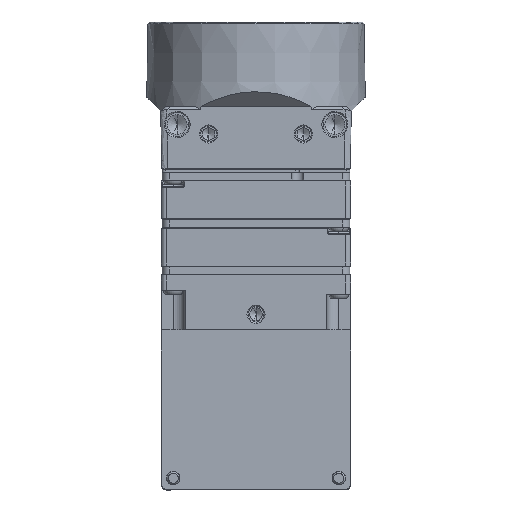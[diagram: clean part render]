
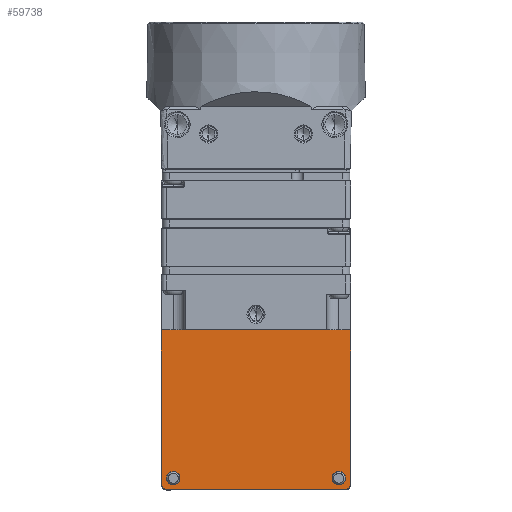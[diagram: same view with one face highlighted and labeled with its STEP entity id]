
A CAD part, front view. The second image highlights one B-rep face of the part: STEP entity #59738.
In plain terms, the highlighted planar face has unit normal (0, -1, 0).
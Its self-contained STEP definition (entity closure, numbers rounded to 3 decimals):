
#717 = CARTESIAN_POINT ( 'NONE',  ( -11.4, 6.5, -39.95 ) ) ;
#1368 = VERTEX_POINT ( 'NONE', #132959 ) ;
#3249 = CARTESIAN_POINT ( 'NONE',  ( 12., 6.5, -39.95 ) ) ;
#4416 = LINE ( 'NONE', #85119, #107515 ) ;
#4716 = CIRCLE ( 'NONE', #89034, 0.85 ) ;
#6299 = VERTEX_POINT ( 'NONE', #19953 ) ;
#6627 = CARTESIAN_POINT ( 'NONE',  ( -12., 6.5, -40.55 ) ) ;
#9598 = VERTEX_POINT ( 'NONE', #148730 ) ;
#10753 = FACE_BOUND ( 'NONE', #88832, .T. ) ;
#11267 = VERTEX_POINT ( 'NONE', #16340 ) ;
#11593 = DIRECTION ( 'NONE',  ( 0., 0., -1. ) ) ;
#12981 = CARTESIAN_POINT ( 'NONE',  ( 10.5, 6.5, -38.3 ) ) ;
#13686 = VERTEX_POINT ( 'NONE', #59465 ) ;
#14624 = CARTESIAN_POINT ( 'NONE',  ( 12., 6.5, -20.35 ) ) ;
#16340 = CARTESIAN_POINT ( 'NONE',  ( 11.4, 6.5, -40.55 ) ) ;
#19466 = AXIS2_PLACEMENT_3D ( 'NONE', #81830, #94627, #140664 ) ;
#19953 = CARTESIAN_POINT ( 'NONE',  ( -12., 6.5, -20.35 ) ) ;
#22877 = AXIS2_PLACEMENT_3D ( 'NONE', #143568, #74897, #98294 ) ;
#24127 = ORIENTED_EDGE ( 'NONE', *, *, #96094, .F. ) ;
#28511 = EDGE_CURVE ( 'NONE', #11267, #106665, #110958, .T. ) ;
#29210 = ORIENTED_EDGE ( 'NONE', *, *, #127398, .T. ) ;
#31380 = DIRECTION ( 'NONE',  ( 0., -1., 0. ) ) ;
#31519 = LINE ( 'NONE', #6627, #134357 ) ;
#31683 = AXIS2_PLACEMENT_3D ( 'NONE', #116315, #56806, #93695 ) ;
#34317 = CARTESIAN_POINT ( 'NONE',  ( 0., 6.5, -20.35 ) ) ;
#34365 = EDGE_CURVE ( 'NONE', #9598, #13686, #148241, .T. ) ;
#34816 = EDGE_LOOP ( 'NONE', ( #116089, #24127 ) ) ;
#35086 = VECTOR ( 'NONE', #57730, 1000. ) ;
#35721 = VERTEX_POINT ( 'NONE', #12981 ) ;
#37113 = ORIENTED_EDGE ( 'NONE', *, *, #28511, .T. ) ;
#37572 = AXIS2_PLACEMENT_3D ( 'NONE', #132091, #53631, #40855 ) ;
#40855 = DIRECTION ( 'NONE',  ( 0., 0., -1. ) ) ;
#43451 = CARTESIAN_POINT ( 'NONE',  ( -10.5, 6.5, -39.15 ) ) ;
#46424 = LINE ( 'NONE', #92380, #35086 ) ;
#53631 = DIRECTION ( 'NONE',  ( 0., -1., 0. ) ) ;
#55659 = CIRCLE ( 'NONE', #101381, 0.85 ) ;
#56806 = DIRECTION ( 'NONE',  ( 0., -1., 0. ) ) ;
#57195 = VECTOR ( 'NONE', #90865, 1000. ) ;
#57730 = DIRECTION ( 'NONE',  ( 0., 0., 1. ) ) ;
#58430 = LINE ( 'NONE', #34317, #57195 ) ;
#59465 = CARTESIAN_POINT ( 'NONE',  ( -10.5, 6.5, -38.3 ) ) ;
#59738 = ADVANCED_FACE ( 'NONE', ( #10753, #114834, #128382 ), #70331, .T. ) ;
#65705 = ORIENTED_EDGE ( 'NONE', *, *, #115914, .F. ) ;
#68204 = CARTESIAN_POINT ( 'NONE',  ( 10.5, 6.5, -39.15 ) ) ;
#68969 = AXIS2_PLACEMENT_3D ( 'NONE', #717, #138765, #93479 ) ;
#70331 = PLANE ( 'NONE',  #31683 ) ;
#70634 = CARTESIAN_POINT ( 'NONE',  ( -12., 6.5, -39.95 ) ) ;
#71250 = CIRCLE ( 'NONE', #37572, 0.85 ) ;
#72865 = ORIENTED_EDGE ( 'NONE', *, *, #34365, .F. ) ;
#73070 = DIRECTION ( 'NONE',  ( 0., 0., -1. ) ) ;
#73291 = VERTEX_POINT ( 'NONE', #14624 ) ;
#74534 = DIRECTION ( 'NONE',  ( -1., 0., 0. ) ) ;
#74897 = DIRECTION ( 'NONE',  ( 0., -1., 0. ) ) ;
#74900 = EDGE_CURVE ( 'NONE', #125812, #6299, #46424, .T. ) ;
#80762 = ORIENTED_EDGE ( 'NONE', *, *, #91453, .F. ) ;
#81830 = CARTESIAN_POINT ( 'NONE',  ( 11.4, 6.5, -39.95 ) ) ;
#85119 = CARTESIAN_POINT ( 'NONE',  ( 12., 6.5, -16.55 ) ) ;
#85891 = CIRCLE ( 'NONE', #68969, 0.6 ) ;
#87956 = DIRECTION ( 'NONE',  ( 0., 0., -1. ) ) ;
#88832 = EDGE_LOOP ( 'NONE', ( #98272, #72865 ) ) ;
#89034 = AXIS2_PLACEMENT_3D ( 'NONE', #43451, #31380, #87956 ) ;
#90865 = DIRECTION ( 'NONE',  ( -1., 0., 0. ) ) ;
#91453 = EDGE_CURVE ( 'NONE', #73291, #106665, #4416, .T. ) ;
#92176 = EDGE_CURVE ( 'NONE', #35721, #1368, #71250, .T. ) ;
#92380 = CARTESIAN_POINT ( 'NONE',  ( -12., 6.5, -16.55 ) ) ;
#92658 = ORIENTED_EDGE ( 'NONE', *, *, #74900, .F. ) ;
#93224 = EDGE_CURVE ( 'NONE', #13686, #9598, #4716, .T. ) ;
#93479 = DIRECTION ( 'NONE',  ( 0., 0., -1. ) ) ;
#93559 = EDGE_LOOP ( 'NONE', ( #65705, #37113, #80762, #29210, #92658, #116826 ) ) ;
#93695 = DIRECTION ( 'NONE',  ( 0., 0., -1. ) ) ;
#94627 = DIRECTION ( 'NONE',  ( 0., -1., 0. ) ) ;
#96094 = EDGE_CURVE ( 'NONE', #1368, #35721, #55659, .T. ) ;
#98272 = ORIENTED_EDGE ( 'NONE', *, *, #93224, .F. ) ;
#98294 = DIRECTION ( 'NONE',  ( 0., 0., -1. ) ) ;
#101381 = AXIS2_PLACEMENT_3D ( 'NONE', #68204, #114925, #11593 ) ;
#106665 = VERTEX_POINT ( 'NONE', #3249 ) ;
#107515 = VECTOR ( 'NONE', #73070, 1000. ) ;
#110958 = CIRCLE ( 'NONE', #19466, 0.6 ) ;
#114834 = FACE_BOUND ( 'NONE', #34816, .T. ) ;
#114925 = DIRECTION ( 'NONE',  ( 0., -1., 0. ) ) ;
#115914 = EDGE_CURVE ( 'NONE', #11267, #144460, #31519, .T. ) ;
#116089 = ORIENTED_EDGE ( 'NONE', *, *, #92176, .F. ) ;
#116315 = CARTESIAN_POINT ( 'NONE',  ( 0., 6.5, -16.85 ) ) ;
#116826 = ORIENTED_EDGE ( 'NONE', *, *, #144303, .T. ) ;
#125812 = VERTEX_POINT ( 'NONE', #70634 ) ;
#127398 = EDGE_CURVE ( 'NONE', #73291, #6299, #58430, .T. ) ;
#128382 = FACE_OUTER_BOUND ( 'NONE', #93559, .T. ) ;
#132091 = CARTESIAN_POINT ( 'NONE',  ( 10.5, 6.5, -39.15 ) ) ;
#132959 = CARTESIAN_POINT ( 'NONE',  ( 10.5, 6.5, -40. ) ) ;
#134357 = VECTOR ( 'NONE', #74534, 1000. ) ;
#138765 = DIRECTION ( 'NONE',  ( 0., -1., 0. ) ) ;
#140664 = DIRECTION ( 'NONE',  ( 0., 0., -1. ) ) ;
#143568 = CARTESIAN_POINT ( 'NONE',  ( -10.5, 6.5, -39.15 ) ) ;
#144303 = EDGE_CURVE ( 'NONE', #125812, #144460, #85891, .T. ) ;
#144460 = VERTEX_POINT ( 'NONE', #146220 ) ;
#146220 = CARTESIAN_POINT ( 'NONE',  ( -11.4, 6.5, -40.55 ) ) ;
#148241 = CIRCLE ( 'NONE', #22877, 0.85 ) ;
#148730 = CARTESIAN_POINT ( 'NONE',  ( -10.5, 6.5, -40. ) ) ;
